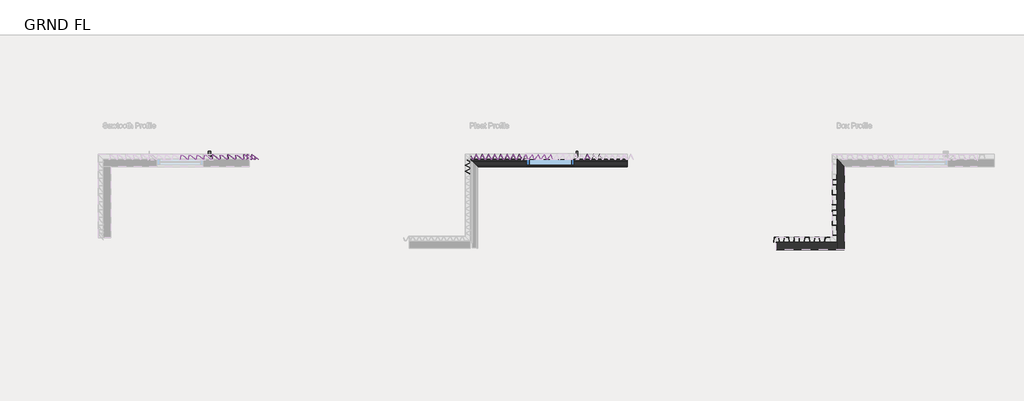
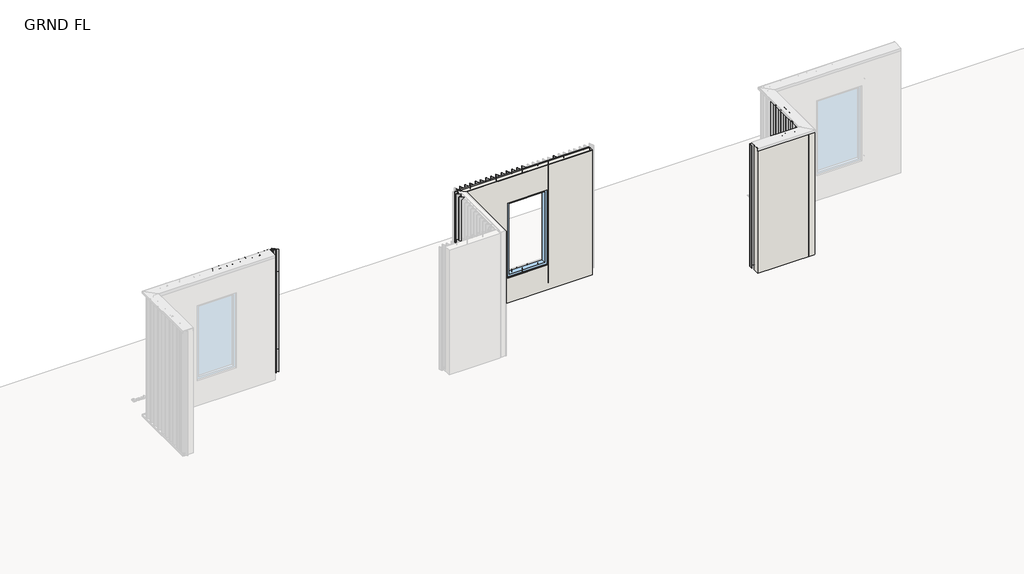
# One storey, part 3 of 13: 90 members, 3 walls, 2 plates, 1 window.
"""IFC4 building model written with IfcOpenShell, lengths in millimetres."""

from ifc_helpers import new_model, si_unit, origin, place, context, project, spatial, faceted_brep, transform, mapped, element, save
from components import rectangular_mullion_400fe68b, rectangular_mullion_a3110674, rectangular_mullion_6d4f5b42, rectangular_mullion_4509f283, rectangular_mullion_c7de9142, rectangular_mullion_2ff98cbb, rectangular_mullion_6f976a3b, rectangular_mullion_a97d78b0, rectangular_mullion_7b9f7ba7, rectangular_mullion_b4d6a2ec, rectangular_mullion_fe7e4276, rectangular_mullion_7e84aa45, rectangular_mullion_1fecb4d4, rectangular_mullion_b818b3c7, rectangular_mullion_534bf3d0, rectangular_mullion_4c5ea910, rectangular_mullion_1e0c4966, rectangular_mullion_1727c332, empty_system_panel_empty_bfaef90a, empty_system_panel_empty_514cd41a, window_93596043

model = new_model("IFC4")

# Units and contexts
model_context = context("Model", 3, world=origin())
ifc_project = project(units=[si_unit("LENGTHUNIT", "METRE", prefix="MILLI")], contexts=[model_context])

# Site, building, storey
site = spatial("IfcSite", under=ifc_project)
building = spatial("IfcBuilding", under=site)
storey = spatial("IfcBuildingStorey", under=building, Name="GRND FL", Elevation=35277.5920148)

# Members
placement = place(None, origin())
rectangular_mullion_shape = rectangular_mullion_400fe68b(model_context)
element("IfcMember", 1, ObjectType="Rectangular Mullion : CD_NINELINE_Pleat Start Intermediate", at=placement, inside=storey, context=model_context, shape_type="MappedRepresentation", body=[
    mapped(rectangular_mullion_shape, transform((54493.6836337, -3909.6348276, 35330.5920148), x_axis=(0.0, -1.0, 0.0), y_axis=(-1.0, 0.0, 0.0), z_axis=(0.0, 0.0, -1.0))),
])
rectangular_mullion_2_shape = rectangular_mullion_a3110674(model_context)
element("IfcMember", 2, ObjectType="Rectangular Mullion : CD_NINELINE_Pleat Start", at=placement, inside=storey, context=model_context, shape_type="MappedRepresentation", body=[
    mapped(rectangular_mullion_2_shape, transform((54493.6836337, -3764.046538, 38277.5920148), x_axis=(0.0, 1.0, 0.0), y_axis=(-1.0, 0.0, 0.0), z_axis=(0.0, 0.0, 1.0))),
])
rectangular_mullion_3_shape = rectangular_mullion_6d4f5b42(model_context)
element("IfcMember", 3, ObjectType="Rectangular Mullion : CD_NINELINE_Pleat Start Intermediate", at=placement, inside=storey, context=model_context, shape_type="MappedRepresentation", body=[
    mapped(rectangular_mullion_3_shape, transform((54657.9220151, -3745.6146039, 35330.5920148), x_axis=(1.0, 0.0, 0.0), y_axis=(0.0, -1.0, 0.0), z_axis=(0.0, 0.0, -1.0))),
])
element("IfcMember", 4, ObjectType="Rectangular Mullion : CD_NINELINE_Pleat Start Intermediate", at=placement, inside=storey, context=model_context, shape_type="MappedRepresentation", body=[
    mapped(rectangular_mullion_3_shape, transform((54775.9220151, -3745.6146039, 35330.5920148), x_axis=(1.0, 0.0, 0.0), y_axis=(0.0, -1.0, 0.0), z_axis=(0.0, 0.0, -1.0))),
])
element("IfcMember", 5, ObjectType="Rectangular Mullion : CD_NINELINE_Pleat Start Intermediate", at=placement, inside=storey, context=model_context, shape_type="MappedRepresentation", body=[
    mapped(rectangular_mullion_3_shape, transform((54893.9220151, -3745.6146039, 35330.5920148), x_axis=(1.0, 0.0, 0.0), y_axis=(0.0, -1.0, 0.0), z_axis=(0.0, 0.0, -1.0))),
])
element("IfcMember", 6, ObjectType="Rectangular Mullion : CD_NINELINE_Pleat Start Intermediate", at=placement, inside=storey, context=model_context, shape_type="MappedRepresentation", body=[
    mapped(rectangular_mullion_3_shape, transform((55011.9220151, -3745.6146039, 35330.5920148), x_axis=(1.0, 0.0, 0.0), y_axis=(0.0, -1.0, 0.0), z_axis=(0.0, 0.0, -1.0))),
])
element("IfcMember", 7, ObjectType="Rectangular Mullion : CD_NINELINE_Pleat Start Intermediate", at=placement, inside=storey, context=model_context, shape_type="MappedRepresentation", body=[
    mapped(rectangular_mullion_3_shape, transform((55129.9220151, -3745.6146039, 35330.5920148), x_axis=(1.0, 0.0, 0.0), y_axis=(0.0, -1.0, 0.0), z_axis=(0.0, 0.0, -1.0))),
])
element("IfcMember", 8, ObjectType="Rectangular Mullion : CD_NINELINE_Pleat Start Intermediate", at=placement, inside=storey, context=model_context, shape_type="MappedRepresentation", body=[
    mapped(rectangular_mullion_3_shape, transform((55247.9220151, -3745.6146039, 35330.5920148), x_axis=(1.0, 0.0, 0.0), y_axis=(0.0, -1.0, 0.0), z_axis=(0.0, 0.0, -1.0))),
])
element("IfcMember", 9, ObjectType="Rectangular Mullion : CD_NINELINE_Pleat Start Intermediate", at=placement, inside=storey, context=model_context, shape_type="MappedRepresentation", body=[
    mapped(rectangular_mullion_3_shape, transform((55365.9220151, -3745.6146039, 35330.5920148), x_axis=(1.0, 0.0, 0.0), y_axis=(0.0, -1.0, 0.0), z_axis=(0.0, 0.0, -1.0))),
])
element("IfcMember", 10, ObjectType="Rectangular Mullion : CD_NINELINE_Pleat Start Intermediate", at=placement, inside=storey, context=model_context, shape_type="MappedRepresentation", body=[
    mapped(rectangular_mullion_3_shape, transform((56545.9220151, -3745.6146039, 35330.5920148), x_axis=(1.0, 0.0, 0.0), y_axis=(0.0, -1.0, 0.0), z_axis=(0.0, 0.0, -1.0))),
])
element("IfcMember", 11, ObjectType="Rectangular Mullion : CD_NINELINE_Pleat Start Intermediate", at=placement, inside=storey, context=model_context, shape_type="MappedRepresentation", body=[
    mapped(rectangular_mullion_3_shape, transform((56663.9220151, -3745.6146039, 35330.5920148), x_axis=(1.0, 0.0, 0.0), y_axis=(0.0, -1.0, 0.0), z_axis=(0.0, 0.0, -1.0))),
])
element("IfcMember", 12, ObjectType="Rectangular Mullion : CD_NINELINE_Pleat Start Intermediate", at=placement, inside=storey, context=model_context, shape_type="MappedRepresentation", body=[
    mapped(rectangular_mullion_3_shape, transform((56781.9220151, -3745.6146039, 35330.5920148), x_axis=(1.0, 0.0, 0.0), y_axis=(0.0, -1.0, 0.0), z_axis=(0.0, 0.0, -1.0))),
])
element("IfcMember", 13, ObjectType="Rectangular Mullion : CD_NINELINE_Pleat Start Intermediate", at=placement, inside=storey, context=model_context, shape_type="MappedRepresentation", body=[
    mapped(rectangular_mullion_3_shape, transform((56899.9220151, -3745.6146039, 35330.5920148), x_axis=(1.0, 0.0, 0.0), y_axis=(0.0, -1.0, 0.0), z_axis=(0.0, 0.0, -1.0))),
])
rectangular_mullion_4_shape = rectangular_mullion_4509f283(model_context)
element("IfcMember", 14, ObjectType="Rectangular Mullion : CD_NINELINE_Pleat Start", at=placement, inside=storey, context=model_context, shape_type="MappedRepresentation", body=[
    mapped(rectangular_mullion_4_shape, transform((54512.3337254, -3745.6146039, 35877.5920148), x_axis=(-1.0, 0.0, 0.0), y_axis=(0.0, -1.0, 0.0), z_axis=(0.0, 0.0, 1.0))),
])
rectangular_mullion_5_shape = rectangular_mullion_c7de9142(model_context)
element("IfcMember", 15, ObjectType="Rectangular Mullion : CD_NINELINE_Sawtooth Start Intermediate", at=placement, inside=storey, context=model_context, shape_type="MappedRepresentation", body=[
    mapped(rectangular_mullion_5_shape, transform((50383.9599021, -3745.6146039, 35877.5920148), x_axis=(-1.0, 0.0, 0.0), y_axis=(0.0, 1.0, 0.0), z_axis=(0.0, 0.0, -1.0))),
])
element("IfcMember", 16, ObjectType="Rectangular Mullion : CD_NINELINE_Sawtooth Start Intermediate", at=placement, inside=storey, context=model_context, shape_type="MappedRepresentation", body=[
    mapped(rectangular_mullion_5_shape, transform((50233.9599021, -3745.6146039, 35877.5920148), x_axis=(-1.0, 0.0, 0.0), y_axis=(0.0, 1.0, 0.0), z_axis=(0.0, 0.0, -1.0))),
])
element("IfcMember", 17, ObjectType="Rectangular Mullion : CD_NINELINE_Sawtooth Start Intermediate", at=placement, inside=storey, context=model_context, shape_type="MappedRepresentation", body=[
    mapped(rectangular_mullion_5_shape, transform((50083.9599021, -3745.6146039, 35877.5920148), x_axis=(-1.0, 0.0, 0.0), y_axis=(0.0, 1.0, 0.0), z_axis=(0.0, 0.0, -1.0))),
])
element("IfcMember", 18, ObjectType="Rectangular Mullion : CD_NINELINE_Sawtooth Start Intermediate", at=placement, inside=storey, context=model_context, shape_type="MappedRepresentation", body=[
    mapped(rectangular_mullion_5_shape, transform((49933.9599021, -3745.6146039, 35877.5920148), x_axis=(-1.0, 0.0, 0.0), y_axis=(0.0, 1.0, 0.0), z_axis=(0.0, 0.0, -1.0))),
])
element("IfcMember", 19, ObjectType="Rectangular Mullion : CD_NINELINE_Sawtooth Start Intermediate", at=placement, inside=storey, context=model_context, shape_type="MappedRepresentation", body=[
    mapped(rectangular_mullion_5_shape, transform((49783.9599021, -3745.6146039, 35877.5920148), x_axis=(-1.0, 0.0, 0.0), y_axis=(0.0, 1.0, 0.0), z_axis=(0.0, 0.0, -1.0))),
])
element("IfcMember", 20, ObjectType="Rectangular Mullion : CD_NINELINE_Sawtooth Start Intermediate", at=placement, inside=storey, context=model_context, shape_type="MappedRepresentation", body=[
    mapped(rectangular_mullion_5_shape, transform((49633.9599021, -3745.6146039, 35877.5920148), x_axis=(-1.0, 0.0, 0.0), y_axis=(0.0, 1.0, 0.0), z_axis=(0.0, 0.0, -1.0))),
])
rectangular_mullion_6_shape = rectangular_mullion_2ff98cbb(model_context)
element("IfcMember", 21, ObjectType="Rectangular Mullion : CD_NINELINE_Sawtooth End", at=placement, inside=storey, context=model_context, shape_type="MappedRepresentation", body=[
    mapped(rectangular_mullion_6_shape, transform((50393.6836337, -3745.6146039, 37729.5920148), x_axis=(1.0, 0.0, 0.0), y_axis=(0.0, 1.0, 0.0), z_axis=(0.0, 0.0, 1.0))),
])
rectangular_mullion_7_shape = rectangular_mullion_6f976a3b(model_context)
element("IfcMember", 22, ObjectType="Rectangular Mullion : CD_NINELINE_Sawtooth Start Intermediate", at=placement, inside=storey, context=model_context, shape_type="MappedRepresentation", body=[
    mapped(rectangular_mullion_7_shape, transform((49483.9599021, -3745.6146039, 35330.5920148), x_axis=(-1.0, 0.0, 0.0), y_axis=(0.0, 1.0, 0.0), z_axis=(0.0, 0.0, -1.0))),
])
element("IfcMember", 23, ObjectType="Rectangular Mullion : CD_NINELINE_Sawtooth Start Intermediate", at=placement, inside=storey, context=model_context, shape_type="MappedRepresentation", body=[
    mapped(rectangular_mullion_7_shape, transform((49333.9599021, -3745.6146039, 35330.5920148), x_axis=(-1.0, 0.0, 0.0), y_axis=(0.0, 1.0, 0.0), z_axis=(0.0, 0.0, -1.0))),
])
element("IfcMember", 24, ObjectType="Rectangular Mullion : CD_NINELINE_Sawtooth Start Intermediate", at=placement, inside=storey, context=model_context, shape_type="MappedRepresentation", body=[
    mapped(rectangular_mullion_7_shape, transform((49183.9599021, -3745.6146039, 35330.5920148), x_axis=(-1.0, 0.0, 0.0), y_axis=(0.0, 1.0, 0.0), z_axis=(0.0, 0.0, -1.0))),
])
element("IfcMember", 25, ObjectType="Rectangular Mullion : CD_NINELINE_Sawtooth Start Intermediate", at=placement, inside=storey, context=model_context, shape_type="MappedRepresentation", body=[
    mapped(rectangular_mullion_7_shape, transform((49033.9599021, -3745.6146039, 35330.5920148), x_axis=(-1.0, 0.0, 0.0), y_axis=(0.0, 1.0, 0.0), z_axis=(0.0, 0.0, -1.0))),
])
element("IfcMember", 26, ObjectType="Rectangular Mullion : CD_NINELINE_Sawtooth Start Intermediate", at=placement, inside=storey, context=model_context, shape_type="MappedRepresentation", body=[
    mapped(rectangular_mullion_7_shape, transform((50383.9599021, -3745.6146039, 35330.5920148), x_axis=(-1.0, 0.0, 0.0), y_axis=(0.0, 1.0, 0.0), z_axis=(0.0, 0.0, -1.0))),
])
element("IfcMember", 27, ObjectType="Rectangular Mullion : CD_NINELINE_Sawtooth Start Intermediate", at=placement, inside=storey, context=model_context, shape_type="MappedRepresentation", body=[
    mapped(rectangular_mullion_7_shape, transform((50233.9599021, -3745.6146039, 35330.5920148), x_axis=(-1.0, 0.0, 0.0), y_axis=(0.0, 1.0, 0.0), z_axis=(0.0, 0.0, -1.0))),
])
element("IfcMember", 28, ObjectType="Rectangular Mullion : CD_NINELINE_Sawtooth Start Intermediate", at=placement, inside=storey, context=model_context, shape_type="MappedRepresentation", body=[
    mapped(rectangular_mullion_7_shape, transform((50083.9599021, -3745.6146039, 35330.5920148), x_axis=(-1.0, 0.0, 0.0), y_axis=(0.0, 1.0, 0.0), z_axis=(0.0, 0.0, -1.0))),
])
element("IfcMember", 29, ObjectType="Rectangular Mullion : CD_NINELINE_Sawtooth Start Intermediate", at=placement, inside=storey, context=model_context, shape_type="MappedRepresentation", body=[
    mapped(rectangular_mullion_7_shape, transform((49933.9599021, -3745.6146039, 35330.5920148), x_axis=(-1.0, 0.0, 0.0), y_axis=(0.0, 1.0, 0.0), z_axis=(0.0, 0.0, -1.0))),
])
element("IfcMember", 30, ObjectType="Rectangular Mullion : CD_NINELINE_Sawtooth Start Intermediate", at=placement, inside=storey, context=model_context, shape_type="MappedRepresentation", body=[
    mapped(rectangular_mullion_7_shape, transform((49783.9599021, -3745.6146039, 35330.5920148), x_axis=(-1.0, 0.0, 0.0), y_axis=(0.0, 1.0, 0.0), z_axis=(0.0, 0.0, -1.0))),
])
element("IfcMember", 31, ObjectType="Rectangular Mullion : CD_NINELINE_Sawtooth Start Intermediate", at=placement, inside=storey, context=model_context, shape_type="MappedRepresentation", body=[
    mapped(rectangular_mullion_7_shape, transform((49633.9599021, -3745.6146039, 35330.5920148), x_axis=(-1.0, 0.0, 0.0), y_axis=(0.0, 1.0, 0.0), z_axis=(0.0, 0.0, -1.0))),
])
rectangular_mullion_8_shape = rectangular_mullion_a97d78b0(model_context)
element("IfcMember", 32, ObjectType="Rectangular Mullion : CD_NINELINE_Sawtooth Start Intermediate", at=placement, inside=storey, context=model_context, shape_type="MappedRepresentation", body=[
    mapped(rectangular_mullion_8_shape, transform((50383.9599021, -3745.6146039, 37729.5920148), x_axis=(-1.0, 0.0, 0.0), y_axis=(0.0, 1.0, 0.0), z_axis=(0.0, 0.0, -1.0))),
])
element("IfcMember", 33, ObjectType="Rectangular Mullion : CD_NINELINE_Sawtooth Start Intermediate", at=placement, inside=storey, context=model_context, shape_type="MappedRepresentation", body=[
    mapped(rectangular_mullion_8_shape, transform((50233.9599021, -3745.6146039, 37729.5920148), x_axis=(-1.0, 0.0, 0.0), y_axis=(0.0, 1.0, 0.0), z_axis=(0.0, 0.0, -1.0))),
])
element("IfcMember", 34, ObjectType="Rectangular Mullion : CD_NINELINE_Sawtooth Start Intermediate", at=placement, inside=storey, context=model_context, shape_type="MappedRepresentation", body=[
    mapped(rectangular_mullion_8_shape, transform((50083.9599021, -3745.6146039, 37729.5920148), x_axis=(-1.0, 0.0, 0.0), y_axis=(0.0, 1.0, 0.0), z_axis=(0.0, 0.0, -1.0))),
])
element("IfcMember", 35, ObjectType="Rectangular Mullion : CD_NINELINE_Sawtooth Start Intermediate", at=placement, inside=storey, context=model_context, shape_type="MappedRepresentation", body=[
    mapped(rectangular_mullion_8_shape, transform((49933.9599021, -3745.6146039, 37729.5920148), x_axis=(-1.0, 0.0, 0.0), y_axis=(0.0, 1.0, 0.0), z_axis=(0.0, 0.0, -1.0))),
])
element("IfcMember", 36, ObjectType="Rectangular Mullion : CD_NINELINE_Sawtooth Start Intermediate", at=placement, inside=storey, context=model_context, shape_type="MappedRepresentation", body=[
    mapped(rectangular_mullion_8_shape, transform((49783.9599021, -3745.6146039, 37729.5920148), x_axis=(-1.0, 0.0, 0.0), y_axis=(0.0, 1.0, 0.0), z_axis=(0.0, 0.0, -1.0))),
])
element("IfcMember", 37, ObjectType="Rectangular Mullion : CD_NINELINE_Sawtooth Start Intermediate", at=placement, inside=storey, context=model_context, shape_type="MappedRepresentation", body=[
    mapped(rectangular_mullion_8_shape, transform((49633.9599021, -3745.6146039, 37729.5920148), x_axis=(-1.0, 0.0, 0.0), y_axis=(0.0, 1.0, 0.0), z_axis=(0.0, 0.0, -1.0))),
])
element("IfcMember", 38, ObjectType="Rectangular Mullion : CD_NINELINE_Sawtooth Start Intermediate", at=placement, inside=storey, context=model_context, shape_type="MappedRepresentation", body=[
    mapped(rectangular_mullion_8_shape, transform((49483.9599021, -3745.6146039, 37729.5920148), x_axis=(-1.0, 0.0, 0.0), y_axis=(0.0, 1.0, 0.0), z_axis=(0.0, 0.0, -1.0))),
])
element("IfcMember", 39, ObjectType="Rectangular Mullion : CD_NINELINE_Sawtooth Start Intermediate", at=placement, inside=storey, context=model_context, shape_type="MappedRepresentation", body=[
    mapped(rectangular_mullion_8_shape, transform((49333.9599021, -3745.6146039, 37729.5920148), x_axis=(-1.0, 0.0, 0.0), y_axis=(0.0, 1.0, 0.0), z_axis=(0.0, 0.0, -1.0))),
])
element("IfcMember", 40, ObjectType="Rectangular Mullion : CD_NINELINE_Sawtooth Start Intermediate", at=placement, inside=storey, context=model_context, shape_type="MappedRepresentation", body=[
    mapped(rectangular_mullion_8_shape, transform((49183.9599021, -3745.6146039, 37729.5920148), x_axis=(-1.0, 0.0, 0.0), y_axis=(0.0, 1.0, 0.0), z_axis=(0.0, 0.0, -1.0))),
])
element("IfcMember", 41, ObjectType="Rectangular Mullion : CD_NINELINE_Sawtooth Start Intermediate", at=placement, inside=storey, context=model_context, shape_type="MappedRepresentation", body=[
    mapped(rectangular_mullion_8_shape, transform((49033.9599021, -3745.6146039, 37729.5920148), x_axis=(-1.0, 0.0, 0.0), y_axis=(0.0, 1.0, 0.0), z_axis=(0.0, 0.0, -1.0))),
])
rectangular_mullion_9_shape = rectangular_mullion_7b9f7ba7(model_context)
element("IfcMember", 42, ObjectType="Rectangular Mullion : CD_NINELINE_Sawtooth End", at=placement, inside=storey, context=model_context, shape_type="MappedRepresentation", body=[
    mapped(rectangular_mullion_9_shape, transform((50393.6836337, -3745.6146039, 38277.5920148), x_axis=(1.0, 0.0, 0.0), y_axis=(0.0, 1.0, 0.0), z_axis=(0.0, 0.0, 1.0))),
])
rectangular_mullion_10_shape = rectangular_mullion_b4d6a2ec(model_context)
element("IfcMember", 43, ObjectType="Rectangular Mullion : CD_NINELINE_Sawtooth End", at=placement, inside=storey, context=model_context, shape_type="MappedRepresentation", body=[
    mapped(rectangular_mullion_10_shape, transform((50393.6836337, -3745.6146039, 35877.5920148), x_axis=(1.0, 0.0, 0.0), y_axis=(0.0, 1.0, 0.0), z_axis=(0.0, 0.0, 1.0))),
])
rectangular_mullion_11_shape = rectangular_mullion_fe7e4276(model_context)
element("IfcMember", 44, ObjectType="Rectangular Mullion : CD_NINELINE_Pleat Start Intermediate", at=placement, inside=storey, context=model_context, shape_type="MappedRepresentation", body=[
    mapped(rectangular_mullion_11_shape, transform((55719.9220151, -3745.6146039, 37690.5295148), x_axis=(1.0, 0.0, 0.0), y_axis=(0.0, -1.0, 0.0), z_axis=(0.0, 0.0, -1.0))),
])
element("IfcMember", 45, ObjectType="Rectangular Mullion : CD_NINELINE_Pleat Start Intermediate", at=placement, inside=storey, context=model_context, shape_type="MappedRepresentation", body=[
    mapped(rectangular_mullion_11_shape, transform((55837.9220151, -3745.6146039, 37690.5295148), x_axis=(1.0, 0.0, 0.0), y_axis=(0.0, -1.0, 0.0), z_axis=(0.0, 0.0, -1.0))),
])
element("IfcMember", 46, ObjectType="Rectangular Mullion : CD_NINELINE_Pleat Start Intermediate", at=placement, inside=storey, context=model_context, shape_type="MappedRepresentation", body=[
    mapped(rectangular_mullion_11_shape, transform((55955.9220151, -3745.6146039, 37690.5295148), x_axis=(1.0, 0.0, 0.0), y_axis=(0.0, -1.0, 0.0), z_axis=(0.0, 0.0, -1.0))),
])
element("IfcMember", 47, ObjectType="Rectangular Mullion : CD_NINELINE_Pleat Start Intermediate", at=placement, inside=storey, context=model_context, shape_type="MappedRepresentation", body=[
    mapped(rectangular_mullion_11_shape, transform((55483.9220151, -3745.6146039, 37690.5295148), x_axis=(1.0, 0.0, 0.0), y_axis=(0.0, -1.0, 0.0), z_axis=(0.0, 0.0, -1.0))),
])
element("IfcMember", 48, ObjectType="Rectangular Mullion : CD_NINELINE_Pleat Start Intermediate", at=placement, inside=storey, context=model_context, shape_type="MappedRepresentation", body=[
    mapped(rectangular_mullion_11_shape, transform((55601.9220151, -3745.6146039, 37690.5295148), x_axis=(1.0, 0.0, 0.0), y_axis=(0.0, -1.0, 0.0), z_axis=(0.0, 0.0, -1.0))),
])
rectangular_mullion_12_shape = rectangular_mullion_7e84aa45(model_context)
element("IfcMember", 49, ObjectType="Rectangular Mullion : CD_NINELINE_Pleat Start Intermediate", at=placement, inside=storey, context=model_context, shape_type="MappedRepresentation", body=[
    mapped(rectangular_mullion_12_shape, transform((54657.9220151, -3745.6146039, 35877.5920148), x_axis=(1.0, 0.0, 0.0), y_axis=(0.0, -1.0, 0.0), z_axis=(0.0, 0.0, -1.0))),
])
element("IfcMember", 50, ObjectType="Rectangular Mullion : CD_NINELINE_Pleat Start Intermediate", at=placement, inside=storey, context=model_context, shape_type="MappedRepresentation", body=[
    mapped(rectangular_mullion_12_shape, transform((54775.9220151, -3745.6146039, 35877.5920148), x_axis=(1.0, 0.0, 0.0), y_axis=(0.0, -1.0, 0.0), z_axis=(0.0, 0.0, -1.0))),
])
element("IfcMember", 51, ObjectType="Rectangular Mullion : CD_NINELINE_Pleat Start Intermediate", at=placement, inside=storey, context=model_context, shape_type="MappedRepresentation", body=[
    mapped(rectangular_mullion_12_shape, transform((54893.9220151, -3745.6146039, 35877.5920148), x_axis=(1.0, 0.0, 0.0), y_axis=(0.0, -1.0, 0.0), z_axis=(0.0, 0.0, -1.0))),
])
element("IfcMember", 52, ObjectType="Rectangular Mullion : CD_NINELINE_Pleat Start Intermediate", at=placement, inside=storey, context=model_context, shape_type="MappedRepresentation", body=[
    mapped(rectangular_mullion_12_shape, transform((55011.9220151, -3745.6146039, 35877.5920148), x_axis=(1.0, 0.0, 0.0), y_axis=(0.0, -1.0, 0.0), z_axis=(0.0, 0.0, -1.0))),
])
element("IfcMember", 53, ObjectType="Rectangular Mullion : CD_NINELINE_Pleat Start Intermediate", at=placement, inside=storey, context=model_context, shape_type="MappedRepresentation", body=[
    mapped(rectangular_mullion_12_shape, transform((56663.9220151, -3745.6146039, 35877.5920148), x_axis=(1.0, 0.0, 0.0), y_axis=(0.0, -1.0, 0.0), z_axis=(0.0, 0.0, -1.0))),
])
element("IfcMember", 54, ObjectType="Rectangular Mullion : CD_NINELINE_Pleat Start Intermediate", at=placement, inside=storey, context=model_context, shape_type="MappedRepresentation", body=[
    mapped(rectangular_mullion_12_shape, transform((56781.9220151, -3745.6146039, 35877.5920148), x_axis=(1.0, 0.0, 0.0), y_axis=(0.0, -1.0, 0.0), z_axis=(0.0, 0.0, -1.0))),
])
element("IfcMember", 55, ObjectType="Rectangular Mullion : CD_NINELINE_Pleat Start Intermediate", at=placement, inside=storey, context=model_context, shape_type="MappedRepresentation", body=[
    mapped(rectangular_mullion_12_shape, transform((56899.9220151, -3745.6146039, 35877.5920148), x_axis=(1.0, 0.0, 0.0), y_axis=(0.0, -1.0, 0.0), z_axis=(0.0, 0.0, -1.0))),
])
element("IfcMember", 56, ObjectType="Rectangular Mullion : CD_NINELINE_Pleat Start Intermediate", at=placement, inside=storey, context=model_context, shape_type="MappedRepresentation", body=[
    mapped(rectangular_mullion_12_shape, transform((55129.9220151, -3745.6146039, 35877.5920148), x_axis=(1.0, 0.0, 0.0), y_axis=(0.0, -1.0, 0.0), z_axis=(0.0, 0.0, -1.0))),
])
element("IfcMember", 57, ObjectType="Rectangular Mullion : CD_NINELINE_Pleat Start Intermediate", at=placement, inside=storey, context=model_context, shape_type="MappedRepresentation", body=[
    mapped(rectangular_mullion_12_shape, transform((55247.9220151, -3745.6146039, 35877.5920148), x_axis=(1.0, 0.0, 0.0), y_axis=(0.0, -1.0, 0.0), z_axis=(0.0, 0.0, -1.0))),
])
element("IfcMember", 58, ObjectType="Rectangular Mullion : CD_NINELINE_Pleat Start Intermediate", at=placement, inside=storey, context=model_context, shape_type="MappedRepresentation", body=[
    mapped(rectangular_mullion_12_shape, transform((55365.9220151, -3745.6146039, 35877.5920148), x_axis=(1.0, 0.0, 0.0), y_axis=(0.0, -1.0, 0.0), z_axis=(0.0, 0.0, -1.0))),
])
element("IfcMember", 59, ObjectType="Rectangular Mullion : CD_NINELINE_Pleat Start Intermediate", at=placement, inside=storey, context=model_context, shape_type="MappedRepresentation", body=[
    mapped(rectangular_mullion_11_shape, transform((54657.9220151, -3745.6146039, 37690.5295148), x_axis=(1.0, 0.0, 0.0), y_axis=(0.0, -1.0, 0.0), z_axis=(0.0, 0.0, -1.0))),
])
element("IfcMember", 60, ObjectType="Rectangular Mullion : CD_NINELINE_Pleat Start Intermediate", at=placement, inside=storey, context=model_context, shape_type="MappedRepresentation", body=[
    mapped(rectangular_mullion_11_shape, transform((54775.9220151, -3745.6146039, 37690.5295148), x_axis=(1.0, 0.0, 0.0), y_axis=(0.0, -1.0, 0.0), z_axis=(0.0, 0.0, -1.0))),
])
element("IfcMember", 61, ObjectType="Rectangular Mullion : CD_NINELINE_Pleat Start Intermediate", at=placement, inside=storey, context=model_context, shape_type="MappedRepresentation", body=[
    mapped(rectangular_mullion_11_shape, transform((54893.9220151, -3745.6146039, 37690.5295148), x_axis=(1.0, 0.0, 0.0), y_axis=(0.0, -1.0, 0.0), z_axis=(0.0, 0.0, -1.0))),
])
element("IfcMember", 62, ObjectType="Rectangular Mullion : CD_NINELINE_Pleat Start Intermediate", at=placement, inside=storey, context=model_context, shape_type="MappedRepresentation", body=[
    mapped(rectangular_mullion_11_shape, transform((55011.9220151, -3745.6146039, 37690.5295148), x_axis=(1.0, 0.0, 0.0), y_axis=(0.0, -1.0, 0.0), z_axis=(0.0, 0.0, -1.0))),
])
element("IfcMember", 63, ObjectType="Rectangular Mullion : CD_NINELINE_Pleat Start Intermediate", at=placement, inside=storey, context=model_context, shape_type="MappedRepresentation", body=[
    mapped(rectangular_mullion_11_shape, transform((55129.9220151, -3745.6146039, 37690.5295148), x_axis=(1.0, 0.0, 0.0), y_axis=(0.0, -1.0, 0.0), z_axis=(0.0, 0.0, -1.0))),
])
element("IfcMember", 64, ObjectType="Rectangular Mullion : CD_NINELINE_Pleat Start Intermediate", at=placement, inside=storey, context=model_context, shape_type="MappedRepresentation", body=[
    mapped(rectangular_mullion_11_shape, transform((55247.9220151, -3745.6146039, 37690.5295148), x_axis=(1.0, 0.0, 0.0), y_axis=(0.0, -1.0, 0.0), z_axis=(0.0, 0.0, -1.0))),
])
element("IfcMember", 65, ObjectType="Rectangular Mullion : CD_NINELINE_Pleat Start Intermediate", at=placement, inside=storey, context=model_context, shape_type="MappedRepresentation", body=[
    mapped(rectangular_mullion_11_shape, transform((55365.9220151, -3745.6146039, 37690.5295148), x_axis=(1.0, 0.0, 0.0), y_axis=(0.0, -1.0, 0.0), z_axis=(0.0, 0.0, -1.0))),
])
element("IfcMember", 66, ObjectType="Rectangular Mullion : CD_NINELINE_Pleat Start Intermediate", at=placement, inside=storey, context=model_context, shape_type="MappedRepresentation", body=[
    mapped(rectangular_mullion_11_shape, transform((56663.9220151, -3745.6146039, 37690.5295148), x_axis=(1.0, 0.0, 0.0), y_axis=(0.0, -1.0, 0.0), z_axis=(0.0, 0.0, -1.0))),
])
rectangular_mullion_13_shape = rectangular_mullion_1fecb4d4(model_context)
element("IfcMember", 67, ObjectType="Rectangular Mullion : CD_NINELINE_Pleat Start", at=placement, inside=storey, context=model_context, shape_type="MappedRepresentation", body=[
    mapped(rectangular_mullion_13_shape, transform((54512.3337254, -3745.6146039, 38272.5920148), x_axis=(-1.0, 0.0, 0.0), y_axis=(0.0, -1.0, 0.0), z_axis=(0.0, 0.0, 1.0))),
])
rectangular_mullion_14_shape = rectangular_mullion_b818b3c7(model_context)
element("IfcMember", 68, ObjectType="Rectangular Mullion : CD_NINELINE_Pleat Start", at=placement, inside=storey, context=model_context, shape_type="MappedRepresentation", body=[
    mapped(rectangular_mullion_14_shape, transform((54512.3337254, -3745.6146039, 37690.5295148), x_axis=(-1.0, 0.0, 0.0), y_axis=(0.0, -1.0, 0.0), z_axis=(0.0, 0.0, 1.0))),
])
rectangular_mullion_15_shape = rectangular_mullion_534bf3d0(model_context)
element("IfcMember", 69, ObjectType="Rectangular Mullion : CD_NINELINE_Pleat Start Intermediate", at=placement, inside=storey, context=model_context, shape_type="MappedRepresentation", body=[
    mapped(rectangular_mullion_15_shape, transform((55601.9220151, -3745.6146039, 35330.5920148), x_axis=(1.0, 0.0, 0.0), y_axis=(0.0, -1.0, 0.0), z_axis=(0.0, 0.0, -1.0))),
])
element("IfcMember", 70, ObjectType="Rectangular Mullion : CD_NINELINE_Pleat Start Intermediate", at=placement, inside=storey, context=model_context, shape_type="MappedRepresentation", body=[
    mapped(rectangular_mullion_15_shape, transform((55719.9220151, -3745.6146039, 35330.5920148), x_axis=(1.0, 0.0, 0.0), y_axis=(0.0, -1.0, 0.0), z_axis=(0.0, 0.0, -1.0))),
])
element("IfcMember", 71, ObjectType="Rectangular Mullion : CD_NINELINE_Pleat Start Intermediate", at=placement, inside=storey, context=model_context, shape_type="MappedRepresentation", body=[
    mapped(rectangular_mullion_15_shape, transform((55837.9220151, -3745.6146039, 35330.5920148), x_axis=(1.0, 0.0, 0.0), y_axis=(0.0, -1.0, 0.0), z_axis=(0.0, 0.0, -1.0))),
])
element("IfcMember", 72, ObjectType="Rectangular Mullion : CD_NINELINE_Pleat Start Intermediate", at=placement, inside=storey, context=model_context, shape_type="MappedRepresentation", body=[
    mapped(rectangular_mullion_15_shape, transform((55955.9220151, -3745.6146039, 35330.5920148), x_axis=(1.0, 0.0, 0.0), y_axis=(0.0, -1.0, 0.0), z_axis=(0.0, 0.0, -1.0))),
])
element("IfcMember", 73, ObjectType="Rectangular Mullion : CD_NINELINE_Pleat Start Intermediate", at=placement, inside=storey, context=model_context, shape_type="MappedRepresentation", body=[
    mapped(rectangular_mullion_15_shape, transform((56073.9220151, -3745.6146039, 35330.5920148), x_axis=(1.0, 0.0, 0.0), y_axis=(0.0, -1.0, 0.0), z_axis=(0.0, 0.0, -1.0))),
])
element("IfcMember", 74, ObjectType="Rectangular Mullion : CD_NINELINE_Pleat Start Intermediate", at=placement, inside=storey, context=model_context, shape_type="MappedRepresentation", body=[
    mapped(rectangular_mullion_15_shape, transform((56191.9220151, -3745.6146039, 35330.5920148), x_axis=(1.0, 0.0, 0.0), y_axis=(0.0, -1.0, 0.0), z_axis=(0.0, 0.0, -1.0))),
])
element("IfcMember", 75, ObjectType="Rectangular Mullion : CD_NINELINE_Pleat Start Intermediate", at=placement, inside=storey, context=model_context, shape_type="MappedRepresentation", body=[
    mapped(rectangular_mullion_15_shape, transform((56309.9220151, -3745.6146039, 35330.5920148), x_axis=(1.0, 0.0, 0.0), y_axis=(0.0, -1.0, 0.0), z_axis=(0.0, 0.0, -1.0))),
])
element("IfcMember", 76, ObjectType="Rectangular Mullion : CD_NINELINE_Pleat Start Intermediate", at=placement, inside=storey, context=model_context, shape_type="MappedRepresentation", body=[
    mapped(rectangular_mullion_15_shape, transform((56427.9220151, -3745.6146039, 35330.5920148), x_axis=(1.0, 0.0, 0.0), y_axis=(0.0, -1.0, 0.0), z_axis=(0.0, 0.0, -1.0))),
])
element("IfcMember", 77, ObjectType="Rectangular Mullion : CD_NINELINE_Pleat Start Intermediate", at=placement, inside=storey, context=model_context, shape_type="MappedRepresentation", body=[
    mapped(rectangular_mullion_3_shape, transform((55483.9220151, -3745.6146039, 35330.5920148), x_axis=(1.0, 0.0, 0.0), y_axis=(0.0, -1.0, 0.0), z_axis=(0.0, 0.0, -1.0))),
])
rectangular_mullion_16_shape = rectangular_mullion_4c5ea910(model_context)
element("IfcMember", 78, ObjectType="Rectangular Mullion : CD_NINELINE_Pleat End Short", at=placement, inside=storey, context=model_context, shape_type="MappedRepresentation", body=[
    mapped(rectangular_mullion_16_shape, transform((55483.9220151, -3745.6146039, 35877.5920148), x_axis=(1.0, 0.0, 0.0), y_axis=(0.0, -1.0, 0.0), z_axis=(0.0, 0.0, -1.0))),
])
rectangular_mullion_17_shape = rectangular_mullion_1e0c4966(model_context)
element("IfcMember", 79, ObjectType="Rectangular Mullion : CD_NINELINE_Box Intermediate", at=placement, inside=storey, context=model_context, shape_type="MappedRepresentation", body=[
    mapped(rectangular_mullion_17_shape, transform((60866.370826, -5326.6302289, 35330.5920148), x_axis=(-1.0, 0.0, 0.0), y_axis=(0.0, 1.0, 0.0), z_axis=(0.0, 0.0, -1.0))),
])
element("IfcMember", 80, ObjectType="Rectangular Mullion : CD_NINELINE_Box Intermediate", at=placement, inside=storey, context=model_context, shape_type="MappedRepresentation", body=[
    mapped(rectangular_mullion_17_shape, transform((60672.370826, -5326.6302289, 35330.5920148), x_axis=(-1.0, 0.0, 0.0), y_axis=(0.0, 1.0, 0.0), z_axis=(0.0, 0.0, -1.0))),
])
element("IfcMember", 81, ObjectType="Rectangular Mullion : CD_NINELINE_Box Intermediate", at=placement, inside=storey, context=model_context, shape_type="MappedRepresentation", body=[
    mapped(rectangular_mullion_17_shape, transform((60478.370826, -5326.6302289, 35330.5920148), x_axis=(-1.0, 0.0, 0.0), y_axis=(0.0, 1.0, 0.0), z_axis=(0.0, 0.0, -1.0))),
])
element("IfcMember", 82, ObjectType="Rectangular Mullion : CD_NINELINE_Box Intermediate", at=placement, inside=storey, context=model_context, shape_type="MappedRepresentation", body=[
    mapped(rectangular_mullion_17_shape, transform((61060.370826, -5326.6302289, 35330.5920148), x_axis=(-1.0, 0.0, 0.0), y_axis=(0.0, 1.0, 0.0), z_axis=(0.0, 0.0, -1.0))),
])
element("IfcMember", 83, ObjectType="Rectangular Mullion : CD_NINELINE_Box Intermediate", at=placement, inside=storey, context=model_context, shape_type="MappedRepresentation", body=[
    mapped(rectangular_mullion_17_shape, transform((61493.6836337, -5013.9811178, 35330.5920148), x_axis=(0.0, -1.0, 0.0), y_axis=(-1.0, 0.0, 0.0), z_axis=(0.0, 0.0, -1.0))),
])
element("IfcMember", 84, ObjectType="Rectangular Mullion : CD_NINELINE_Box Intermediate", at=placement, inside=storey, context=model_context, shape_type="MappedRepresentation", body=[
    mapped(rectangular_mullion_17_shape, transform((61493.6836337, -4819.9811178, 35330.5920148), x_axis=(0.0, -1.0, 0.0), y_axis=(-1.0, 0.0, 0.0), z_axis=(0.0, 0.0, -1.0))),
])
element("IfcMember", 85, ObjectType="Rectangular Mullion : CD_NINELINE_Box Intermediate", at=placement, inside=storey, context=model_context, shape_type="MappedRepresentation", body=[
    mapped(rectangular_mullion_17_shape, transform((61493.6836337, -4625.9811178, 35330.5920148), x_axis=(0.0, -1.0, 0.0), y_axis=(-1.0, 0.0, 0.0), z_axis=(0.0, 0.0, -1.0))),
])
element("IfcMember", 86, ObjectType="Rectangular Mullion : CD_NINELINE_Box Intermediate", at=placement, inside=storey, context=model_context, shape_type="MappedRepresentation", body=[
    mapped(rectangular_mullion_17_shape, transform((61493.6836337, -4431.9811178, 35330.5920148), x_axis=(0.0, -1.0, 0.0), y_axis=(-1.0, 0.0, 0.0), z_axis=(0.0, 0.0, -1.0))),
])
element("IfcMember", 87, ObjectType="Rectangular Mullion : CD_NINELINE_Box Intermediate", at=placement, inside=storey, context=model_context, shape_type="MappedRepresentation", body=[
    mapped(rectangular_mullion_17_shape, transform((61254.370826, -5326.6302289, 35330.5920148), x_axis=(-1.0, 0.0, 0.0), y_axis=(0.0, 1.0, 0.0), z_axis=(0.0, 0.0, -1.0))),
])
element("IfcMember", 88, ObjectType="Rectangular Mullion : CD_NINELINE_Box Intermediate", at=placement, inside=storey, context=model_context, shape_type="MappedRepresentation", body=[
    mapped(rectangular_mullion_17_shape, transform((61493.6836337, -4237.9811178, 35330.5920148), x_axis=(0.0, -1.0, 0.0), y_axis=(-1.0, 0.0, 0.0), z_axis=(0.0, 0.0, -1.0))),
])
element("IfcMember", 89, ObjectType="Rectangular Mullion : CD_NINELINE_Box Intermediate", at=placement, inside=storey, context=model_context, shape_type="MappedRepresentation", body=[
    mapped(rectangular_mullion_17_shape, transform((61493.6836337, -4043.9811178, 35330.5920148), x_axis=(0.0, -1.0, 0.0), y_axis=(-1.0, 0.0, 0.0), z_axis=(0.0, 0.0, -1.0))),
])
rectangular_mullion_18_shape = rectangular_mullion_1727c332(model_context)
element("IfcMember", 90, ObjectType="Rectangular Mullion : CD_NINELINE_Box Start", at=placement, inside=storey, context=model_context, shape_type="MappedRepresentation", body=[
    mapped(rectangular_mullion_18_shape, transform((61356.7461337, -5326.6302289, 38272.5920148), x_axis=(1.0, 0.0, 0.0), y_axis=(0.0, 1.0, 0.0), z_axis=(0.0, 0.0, 1.0))),
])

# Plates
empty_system_panel_empty_shape = empty_system_panel_empty_bfaef90a(model_context)
element("IfcPlate", 91, ObjectType="Empty System Panel : Empty", at=placement, inside=storey, context=model_context, shape_type="MappedRepresentation", body=[
    mapped(empty_system_panel_empty_shape, transform((49522.0717679, -3745.6146039, 35877.5920148), x_axis=(-1.0, 0.0, 0.0), y_axis=(0.0, -1.0, 0.0), z_axis=(0.0, 0.0, 1.0))),
])
empty_system_panel_empty_2_shape = empty_system_panel_empty_514cd41a(model_context)
element("IfcPlate", 92, ObjectType="Empty System Panel : Empty", at=placement, inside=storey, context=model_context, shape_type="MappedRepresentation", body=[
    mapped(empty_system_panel_empty_2_shape, transform((56531.5181294, -3745.6146039, 35873.9404323), x_axis=(1.0, 0.0, 0.0), y_axis=(0.0, 1.0, 0.0), z_axis=(0.0, 0.0, 1.0))),
])

# Walls
element("IfcWall", 93, ObjectType="EXT METAL SF- Top Hat 35, Steel Frame 90, Plasterboard 13", at=placement, inside=storey, context=model_context, shape_type="Brep", body=[
    faceted_brep([(57493.6836337, -3780.6146039, 35277.5920148), (54528.6836337, -3780.6146039, 35277.5920148), (54528.6836337, -3780.6146039, 38277.5920148), (57493.6836337, -3780.6146039, 38277.5920148), (56481.9220151, -3780.6146039, 35877.5920148), (56481.9220151, -3780.6146039, 37677.5920148), (55567.9220151, -3780.6146039, 37677.5920148), (55567.9220151, -3780.6146039, 35877.5920148), (54530.6836337, -3782.6146039, 35277.5920148), (57493.6836337, -3782.6146039, 35277.5920148), (57493.6836337, -3782.6146039, 38277.5920148), (54530.6836337, -3782.6146039, 38277.5920148), (56481.9220151, -3782.6146039, 35877.5920148), (56481.9220151, -3782.6146039, 37677.5920148), (55567.9220151, -3782.6146039, 37677.5920148), (55567.9220151, -3782.6146039, 35877.5920148)], [[[0, 1, 2, 3], [4, 5, 6, 7]], [[8, 1, 0, 9]], [[9, 0, 3, 10]], [[10, 3, 2, 11]], [[4, 12, 13, 5]], [[5, 13, 14, 6]], [[6, 14, 15, 7]], [[12, 4, 7, 15]], [[1, 8, 11, 2]], [[8, 9, 10, 11], [13, 12, 15, 14]]]),
    faceted_brep([(57493.6836337, -3887.6146039, 35277.5920148), (54635.6836337, -3887.6146039, 35277.5920148), (54622.6836337, -3874.6146039, 35277.5920148), (57493.6836337, -3874.6146039, 35277.5920148), (57493.6836337, -3887.6146039, 38277.5920148), (57493.6836337, -3874.6146039, 38277.5920148), (57493.6836337, -3882.8180808, 38277.5920148), (54635.6836337, -3887.6146039, 38277.5920148), (54622.6836337, -3874.6146039, 38277.5920148), (54630.8871105, -3882.8180808, 38277.5920148), (56481.9220151, -3887.6146039, 35877.5920148), (56481.9220151, -3887.6146039, 37677.5920148), (56481.9220151, -3874.6146039, 37677.5920148), (56481.9220151, -3874.6146039, 35877.5920148), (55567.9220151, -3887.6146039, 37677.5920148), (55567.9220151, -3874.6146039, 37677.5920148), (55567.9220151, -3887.6146039, 35877.5920148), (55567.9220151, -3874.6146039, 35877.5920148)], [[[0, 1, 2, 3]], [[4, 0, 3, 5, 6]], [[7, 4, 6, 5, 8, 9]], [[10, 11, 12, 13]], [[11, 14, 15, 12]], [[14, 16, 17, 15]], [[16, 10, 13, 17]], [[1, 7, 9, 8, 2]], [[3, 2, 8, 5], [13, 12, 15, 17]], [[1, 0, 4, 7], [11, 10, 16, 14]]]),
    faceted_brep([(54622.6836337, -3874.6146039, 35277.5920148), (57493.6836337, -3874.6146039, 35277.5920148), (57493.6836337, -3874.6146039, 38277.5920148), (54622.6836337, -3874.6146039, 38277.5920148), (56481.9220151, -3874.6146039, 37677.5920148), (56481.9220151, -3874.6146039, 35877.5920148), (55567.9220151, -3874.6146039, 35877.5920148), (55567.9220151, -3874.6146039, 37677.5920148), (54530.6836337, -3782.6146039, 35277.5920148), (57493.6836337, -3782.6146039, 35277.5920148), (57493.6836337, -3782.6146039, 38277.5920148), (54530.6836337, -3782.6146039, 38277.5920148), (56481.9220151, -3782.6146039, 35877.5920148), (56481.9220151, -3782.6146039, 37677.5920148), (55567.9220151, -3782.6146039, 37677.5920148), (55567.9220151, -3782.6146039, 35877.5920148)], [[[0, 1, 2, 3], [4, 5, 6, 7]], [[0, 8, 9, 1]], [[1, 9, 10, 2]], [[2, 10, 11, 3]], [[12, 5, 4, 13]], [[13, 4, 7, 14]], [[14, 7, 6, 15]], [[5, 12, 15, 6]], [[8, 0, 3, 11]], [[9, 8, 11, 10], [12, 13, 14, 15]]]),
    faceted_brep([(54528.6836337, -3780.6146039, 35277.5920148), (57493.6836337, -3780.6146039, 35277.5920148), (57493.6836337, -3780.6146039, 38277.5920148), (54528.6836337, -3780.6146039, 38277.5920148), (56481.9220151, -3780.6146039, 37677.5920148), (56481.9220151, -3780.6146039, 35877.5920148), (55567.9220151, -3780.6146039, 35877.5920148), (55567.9220151, -3780.6146039, 37677.5920148), (57493.6836337, -3745.6146039, 35277.5920148), (54493.6836337, -3745.6146039, 35277.5920148), (54493.6836337, -3745.6146039, 35328.1811873), (57493.6836337, -3745.6146039, 35328.1811873), (57493.6836337, -3746.6146039, 35328.1986423), (57493.6836337, -3746.6146039, 35407.5920148), (57493.6836337, -3745.6146039, 35407.5920148), (57493.6836337, -3745.6146039, 38277.5920148), (54493.6836337, -3745.6146039, 38277.5920148), (56481.9220151, -3745.6146039, 35879.7983437), (56481.9220151, -3745.6146039, 35877.5920148), (56481.9220151, -3745.6146039, 37677.5920148), (56481.9220151, -3745.6146039, 35880.798496), (56481.9220151, -3755.8949944, 35880.8841197), (56481.9220151, -3755.8949944, 35879.8839674), (55567.2156993, -3745.6146039, 37677.5920148), (55567.9220151, -3767.6146039, 37677.5920148), (55567.2156993, -3767.6146039, 37677.5920148), (55567.9220151, -3767.6146039, 35877.5920148), (55567.2156993, -3745.6146039, 35877.5920148), (55567.2156993, -3767.6146039, 35877.5920148), (54493.6836337, -3745.6146039, 35407.5920148), (54494.6836337, -3746.6146039, 35407.5920148), (54494.6836337, -3746.6146039, 35328.1986423), (56566.1560507, -3755.8949944, 35879.5919856), (56566.1560507, -3755.8949944, 35869.5920148), (56554.7771189, -3755.8949944, 35869.5920148), (56554.7771189, -3755.8949944, 35859.5920148), (56551.7290826, -3755.8949944, 35866.9515905), (56552.7983524, -3755.8949944, 35867.2936106), (56553.6392257, -3755.8949944, 35865.2632966), (56553.6392257, -3755.8949944, 35870.5920148), (56565.0181575, -3755.8949944, 35870.5920148), (56565.0181575, -3755.8949944, 35878.6092884), (56560.5742541, -3745.6146039, 35879.5919856), (56560.5742541, -3745.6146039, 35869.5920148), (56559.4363609, -3745.6146039, 35878.6092884), (55567.2156993, -3755.8949944, 35880.8706117), (55567.2156993, -3755.8949944, 35879.8704594), (55485.0001417, -3755.8949944, 35878.6092884), (55485.0001417, -3755.8949944, 35870.5920148), (55496.3790735, -3755.8949944, 35870.5920148), (55496.3790735, -3755.8949944, 35865.2632966), (55497.2199468, -3755.8949944, 35867.2936106), (55498.2892166, -3755.8949944, 35866.9515905), (55495.2411803, -3755.8949944, 35859.5920148), (55495.2411803, -3755.8949944, 35869.5920148), (55483.8622485, -3755.8949944, 35869.5920148), (55483.8622485, -3755.8949944, 35879.5919856), (55489.4440451, -3745.6146039, 35869.5920148), (55489.4440451, -3745.6146039, 35879.5919856), (55567.2156993, -3745.6146039, 35879.7848357), (55490.5819383, -3745.6146039, 35878.6092884), (55567.2156993, -3745.6146039, 35880.784988), (56443.9969493, -3745.6146039, 37688.4071892), (55606.2160469, -3745.6146039, 37688.4071892), (55606.8109844, -3746.6146039, 37688.4246443), (56443.4020118, -3746.6146039, 37688.4246443), (55606.8109844, -3746.6146039, 37787.5920148), (56443.4020118, -3746.6146039, 37787.5920148), (56438.1998141, -3755.8949944, 37691.5729825), (56439.3377073, -3755.8949944, 37691.5729825), (56439.3377073, -3755.8949944, 37682.5386713), (56566.7817436, -3755.8949944, 37678.6275451), (56566.7817436, -3755.8949944, 37686.6093175), (56448.4408527, -3755.8949944, 37688.4246443), (56448.4408527, -3755.8949944, 37787.5920148), (56449.5787459, -3755.8949944, 37787.5920148), (56449.5787459, -3755.8949944, 37689.4073415), (56567.9196367, -3755.8949944, 37687.5920148), (56567.9196367, -3755.8949944, 37677.5920148), (56438.1998141, -3755.8949944, 37681.5729825), (56562.3378401, -3745.6146039, 37687.5920148), (56562.3378401, -3745.6146039, 37677.5920148), (56561.1999469, -3745.6146039, 37678.6275451), (56561.1999469, -3745.6146039, 37686.6093175), (56443.9969493, -3745.6146039, 37787.5920148), (56443.9969493, -3745.6146039, 37689.4073415), (55480.7177747, -3758.7968606, 37677.5920148), (55480.7177747, -3758.7968606, 37687.5920148), (55599.0586655, -3758.7968606, 37689.4073415), (55599.0586655, -3758.7968606, 37787.5920148), (55600.1965587, -3758.7968606, 37787.5920148), (55600.1965587, -3758.7968606, 37688.4246443), (55481.8556679, -3758.7968606, 37686.6093175), (55481.8556679, -3758.7968606, 37678.6275451), (55609.2997042, -3758.7968606, 37682.5386713), (55609.2997042, -3758.7968606, 37691.5729825), (55610.4375974, -3758.7968606, 37691.5729825), (55610.4375974, -3758.7968606, 37681.5729825), (55487.8751561, -3745.6146039, 37677.5920148), (55487.8751561, -3745.6146039, 37687.5920148), (55489.0130493, -3745.6146039, 37686.6093175), (55489.0130493, -3745.6146039, 37678.6275451), (55606.2160469, -3745.6146039, 37787.5920148), (55606.2160469, -3745.6146039, 37689.4073415), (55500.8229769, -3745.6146039, 35869.5920148), (55500.8229769, -3745.6146039, 35859.5920148), (55501.9608701, -3745.6146039, 35870.5920148), (55501.9608701, -3745.6146039, 35865.2632966), (55490.5819383, -3745.6146039, 35870.5920148), (56549.1953223, -3745.6146039, 35869.5920148), (56549.1953223, -3745.6146039, 35859.5920148), (56548.0574291, -3745.6146039, 35865.2632966), (56548.0574291, -3745.6146039, 35870.5920148), (56559.4363609, -3745.6146039, 35870.5920148), (55606.2160469, -3745.6146039, 37681.2237748), (55612.1654218, -3755.6146039, 37681.5729825), (55612.1654218, -3755.6146039, 37691.5729825), (56438.0475745, -3755.6146039, 37691.5729825), (55611.5704843, -3754.6146039, 37691.5729825), (56438.6425119, -3754.6146039, 37691.5729825), (55611.5704843, -3754.6146039, 37682.5386713), (55606.2160469, -3745.6146039, 37682.2243844), (56443.9969493, -3745.6146039, 37681.2237748), (56438.0475745, -3755.6146039, 37681.5729825), (56438.6425119, -3754.6146039, 37682.5386713), (56443.9969493, -3745.6146039, 37682.2243844), (55503.8710132, -3745.6146039, 35866.9515905), (55502.8017434, -3745.6146039, 35867.2936106), (56546.1472859, -3745.6146039, 35866.9515905), (56547.2165558, -3745.6146039, 35867.2936106)], [[[0, 1, 2, 3], [4, 5, 6, 7]], [[8, 9, 10, 11]], [[9, 8, 1, 0]], [[8, 11, 12, 13, 14, 15, 2, 1]], [[15, 16, 3, 2]], [[17, 18, 5, 4, 19, 20, 21, 22]], [[23, 19, 4, 7, 24, 25]], [[26, 24, 7, 6]], [[18, 27, 28, 26, 6, 5]], [[10, 9, 0, 3, 16, 29, 30, 31]], [[11, 10, 31, 12]], [[13, 12, 31, 30]], [[29, 14, 13, 30]], [[22, 21, 32, 33, 34, 35, 36, 37, 38, 39, 40, 41]], [[42, 43, 33, 32]], [[44, 17, 22, 41]], [[20, 42, 32, 21]], [[45, 46, 47, 48, 49, 50, 51, 52, 53, 54, 55, 56]], [[57, 58, 56, 55]], [[59, 60, 47, 46]], [[58, 61, 45, 56]], [[62, 63, 64, 65]], [[65, 64, 66, 67]], [[68, 69, 70, 71, 72, 73, 74, 75, 76, 77, 78, 79]], [[80, 81, 78, 77]], [[82, 83, 72, 71]], [[83, 62, 65, 73, 72]], [[65, 67, 74, 73]], [[84, 85, 76, 75]], [[85, 80, 77, 76]], [[86, 87, 88, 89, 90, 91, 92, 93, 94, 95, 96, 97]], [[98, 99, 87, 86]], [[100, 101, 93, 92]], [[63, 100, 92, 91, 64]], [[66, 64, 91, 90]], [[102, 84, 75, 74, 67, 66, 90, 89]], [[103, 102, 89, 88]], [[99, 103, 88, 87]], [[104, 57, 55, 54]], [[105, 104, 54, 53]], [[106, 107, 50, 49]], [[108, 106, 49, 48]], [[60, 108, 48, 47]], [[109, 110, 35, 34]], [[111, 112, 39, 38]], [[113, 44, 41, 40]], [[114, 98, 86, 97, 115]], [[97, 96, 116, 115]], [[69, 68, 117, 116, 96, 95, 118, 119]], [[95, 94, 120, 118]], [[101, 121, 120, 94, 93]], [[122, 114, 115, 123]], [[115, 116, 117, 123]], [[119, 118, 120, 124]], [[121, 125, 124, 120]], [[81, 122, 123, 79, 78]], [[68, 79, 123, 117]], [[70, 69, 119, 124]], [[125, 82, 71, 70, 124]], [[126, 105, 53, 52]], [[127, 126, 52, 51]], [[107, 127, 51, 50]], [[110, 128, 36, 35]], [[128, 129, 37, 36]], [[129, 111, 38, 37]], [[112, 113, 40, 39]], [[43, 109, 34, 33]], [[63, 62, 83, 82, 125, 121, 101, 100]], [[16, 15, 14, 29], [18, 17, 44, 113, 112, 111, 129, 128, 110, 109, 43, 42, 20, 19, 23, 61, 58, 57, 104, 105, 126, 127, 107, 106, 108, 60, 59, 27], [81, 80, 85, 84, 102, 103, 99, 98, 114, 122]], [[25, 24, 26, 28]], [[61, 23, 25, 28, 27, 59, 46, 45]]]),
])
element("IfcWall", 94, ObjectType="EXT METAL SF- Top Hat 35, Steel Frame 90, Plasterboard 13", at=placement, inside=storey, context=model_context, shape_type="Brep", body=[
    faceted_brep([(61493.6836337, -3745.6146039, 35277.5920148), (61493.6836337, -5326.6302289, 35277.5920148), (61493.6836337, -5468.6302289, 35277.5920148), (61493.6836337, -5468.6302289, 38277.5920148), (61493.6836337, -5463.8337058, 38277.5920148), (61493.6836337, -5326.6302289, 38277.5920148), (61493.6836337, -3745.6146039, 38277.5920148), (61493.6836337, -3745.6146039, 35407.5920148), (61493.6836337, -5326.6302289, 35407.5920148), (61493.6836337, -5327.6302289, 35407.5920148), (61493.6836337, -5327.6302289, 35328.1986423), (61493.6836337, -5326.6302289, 35328.1811873), (61493.6836337, -3745.6146039, 35328.1811873), (61635.6836337, -5468.6302289, 35277.5920148), (61635.6836337, -3887.6146039, 35277.5920148), (61635.6836337, -3887.6146039, 38277.5920148), (61635.6836337, -5468.6302289, 38277.5920148), (61630.8871105, -3882.8180808, 38277.5920148), (61494.6836337, -3746.6146039, 35328.1986423), (61494.6836337, -3746.6146039, 35407.5920148), (61494.6836337, -5327.6302289, 35407.5920148), (61494.6836337, -5327.6302289, 35328.1986423)], [[[0, 1, 2, 3, 4, 5, 6, 7, 8, 9, 10, 11, 12]], [[13, 14, 15, 16]], [[2, 1, 0, 14, 13]], [[16, 15, 17, 6, 5, 4, 3]], [[15, 14, 0, 12, 18, 19, 7, 6, 17]], [[19, 20, 9, 8, 7]], [[20, 19, 18, 21]], [[21, 18, 12, 11]], [[3, 2, 13, 16]], [[20, 21, 10, 9]], [[10, 21, 11]]]),
])
element("IfcWall", 95, ObjectType="EXT METAL SF- Top Hat 35, Steel Frame 90, Plasterboard 13", at=placement, inside=storey, context=model_context, shape_type="Brep", body=[
    faceted_brep([(61493.6836337, -5326.6302289, 35277.5920148), (60334.6836337, -5326.6302289, 35277.5920148), (60334.6836337, -5326.6302289, 35328.1811873), (61493.6836337, -5326.6302289, 35328.1811873), (60334.6836337, -5326.6302289, 38277.5920148), (61493.6836337, -5326.6302289, 38277.5920148), (61493.6836337, -5326.6302289, 35407.5920148), (60334.6836337, -5326.6302289, 35407.5920148), (60334.6836337, -5468.6302289, 35277.5920148), (61493.6836337, -5468.6302289, 35277.5920148), (61493.6836337, -5468.6302289, 38277.5920148), (60334.6836337, -5468.6302289, 38277.5920148), (60334.6836337, -5463.8337058, 38277.5920148), (60334.6836337, -5327.6302289, 35407.5920148), (60334.6836337, -5327.6302289, 35328.1986423), (61493.6836337, -5463.8337058, 38277.5920148), (61493.6836337, -5327.6302289, 35407.5920148), (61493.6836337, -5327.6302289, 35328.1986423)], [[[0, 1, 2, 3]], [[4, 5, 6, 7]], [[8, 9, 10, 11]], [[1, 0, 9, 8]], [[8, 11, 12, 4, 7, 13, 14, 2, 1]], [[5, 4, 12, 11, 10, 15]], [[16, 13, 7, 6]], [[13, 16, 17, 14]], [[14, 17, 3, 2]], [[5, 15, 10, 9, 0, 3, 17, 16, 6]]]),
])

# Window
window_shape = window_93596043(model_context)
element("IfcWindow", 96, ObjectType="DFMA Window 1 Bay 2020 V1 : WI.XX, 1 Bay, Type 2", at=placement, inside=storey, context=model_context, shape_type="MappedRepresentation", body=[
    mapped(window_shape, transform((56024.9220151, -3816.6146039, 35277.5920148), x_axis=(-1.0, 0.0, 0.0), y_axis=(0.0, -1.0, 0.0), z_axis=(0.0, 0.0, 1.0))),
])

save(model, "model.ifc")
